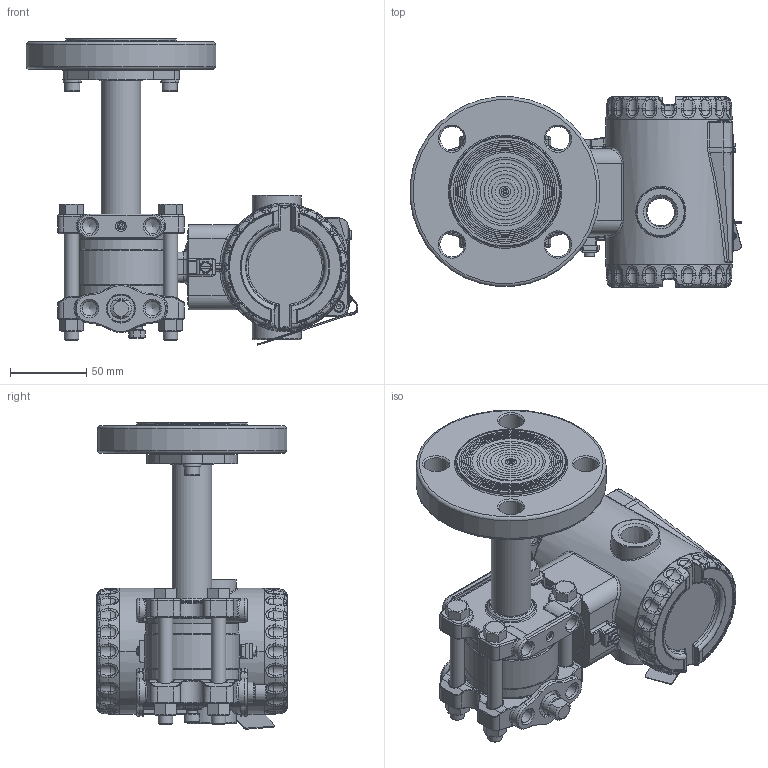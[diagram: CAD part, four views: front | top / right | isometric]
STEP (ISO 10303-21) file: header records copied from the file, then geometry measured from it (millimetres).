
FILE_DESCRIPTION(/* description */ (''),/* implementation_level */ '2;1');
FILE_NAME(/* name */ 'F:\Area\Desenvolvimento_2\Projects\Sensor\projetos\LD400-3d\dimensionais 3D clientes\LD400L\LD400L 1-1-2-150 RF ref 1-4NPT purga acima.stp',/* time_stamp */ '2023-02-23T14:47:49-03:00',/* author */ ('inventor02'),/* organization */ (''),/* preprocessor_version */ 'ST-DEVELOPER v17',/* originating_system */ 'Autodesk Inventor 2019',/* authorisation */ '');
FILE_SCHEMA (('CONFIG_CONTROL_DESIGN'));
Products named in the file (38): LD30XL 1-1-2-150 RF ref 1-4NPT purga acima; 204-0301-L-1-1-2 150 RF purga acima; nivel fx3 com baixa diferencial 1-4NPT purga acima; involucro fx0-3 apos a usinagem final; flange diferencial std purga; 101-C-7484-01 flange selo nivel VR; 201-A-0504-tubo união teste 1; bujao 1-4NPT; Sangria; Porca 3-8 x 16 UNC; Paraf. 3-8 x 16 UNC; adaptação tubo x flanges 1-1-2 a 4pol; 101-B-0161-anel cortado do tubo - teste1; 101-B-0162-flange fixação tubo; ANSI B18.3.1M - M6x1 x 16; DIN 127 - A 6; 101-C-0218-11; Carcaça 400 com tampas e plaqueta sem letras; 101-D-0845-05 carcaça LD400 sem letras; 101-B-3614-03-tampa 400 sem letras; Tampa visor 400 montada sem letras; 101-B-3612-05 tampa visor 400 sem letras; 101-A-6107; oring 2034; 00034775-0; WHW_250; DIN 915 - M6 x 10; Chapa aterramento externo; 201-A-1771-02 inserto terra recartilhado; AS 1969 - ST4,2; ISO 1207 - M4 x 8; ANSI B18.3.1M - M4x0,7 x 8; Subconjunto plaqueta 400; plaqueta 400 em branco; Parafuso da Plaqueta; Rebite da Plaqueta; 096-A-0169-03; 101-A-0502-01
Assembly tree (47 placements, depth 4):
  LD30XL 1-1-2-150 RF ref 1-4NPT purga acima
    204-0301-L-1-1-2 150 RF purga acima
      nivel fx3 com baixa diferencial 1-4NPT purga acima
        involucro fx0-3 apos a usinagem final
        flange diferencial std purga
        101-C-7484-01 flange selo nivel VR
        201-A-0504-tubo união teste 1
        DIN 915 - M6 x 10
        bujao 1-4NPT
        Sangria
        Porca 3-8 x 16 UNC  x4
        Paraf. 3-8 x 16 UNC  x4
      adaptação tubo x flanges 1-1-2 a 4pol
        101-B-0161-anel cortado do tubo - teste1
        101-B-0162-flange fixação tubo
        ANSI B18.3.1M - M6x1 x 16  x2
        DIN 127 - A 6  x2
      101-C-0218-11
    Carcaça 400 com tampas e plaqueta sem letras
      101-D-0845-05 carcaça LD400 sem letras
      101-B-3614-03-tampa 400 sem letras
      Tampa visor 400 montada sem letras
        101-B-3612-05 tampa visor 400 sem letras
        101-A-6107
        oring 2034
        00034775-0
        WHW_250
      DIN 915 - M6 x 10
      Chapa aterramento externo
      201-A-1771-02 inserto terra recartilhado
      AS 1969 - ST4,2
      ISO 1207 - M4 x 8
      ANSI B18.3.1M - M4x0,7 x 8  x2
      Subconjunto plaqueta 400
        plaqueta 400 em branco
        Parafuso da Plaqueta
        Rebite da Plaqueta
        096-A-0169-03
        101-A-0502-01
Bounding box: 218.01 x 125 x 201.42 mm (x, y, z)
Volume: 841417.4 mm3; surface area: 294443.5 mm2
Topology: 41 solids, 41 shells, 2707 faces, 6578 edges, 3934 vertices
Faces by surface type: plane 703, cylinder 656, bspline 604, torus 452, cone 216, sphere 76
Full cylindrical faces by diameter (mm): 2 x4, 2.1 x1, 2.2 x1, 2.459 x3, 2.5 x1, 2.7 x1, 2.8 x1, 3 x4, 3.242 x3, 3.5 x1, 3.571 x1, 4 x5, 4.3 x2, 4.4 x1, 4.917 x4, 5 x1, 5.5 x3, 6 x6, 6.1 x2, 6.2 x1, 6.647 x1, 7 x5, 7.6 x2, 7.798 x4, 8 x1, 9.525 x4, 9.728 x6, 10 x2, 10.5 x8, 10.719 x2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
Entity records: 96785 total; most frequent: CARTESIAN_POINT 36775, ORIENTED_EDGE 12396, DIRECTION 12316, EDGE_CURVE 6198, AXIS2_PLACEMENT_3D 5254, VERTEX_POINT 3740, CIRCLE 3040, EDGE_LOOP 2724
